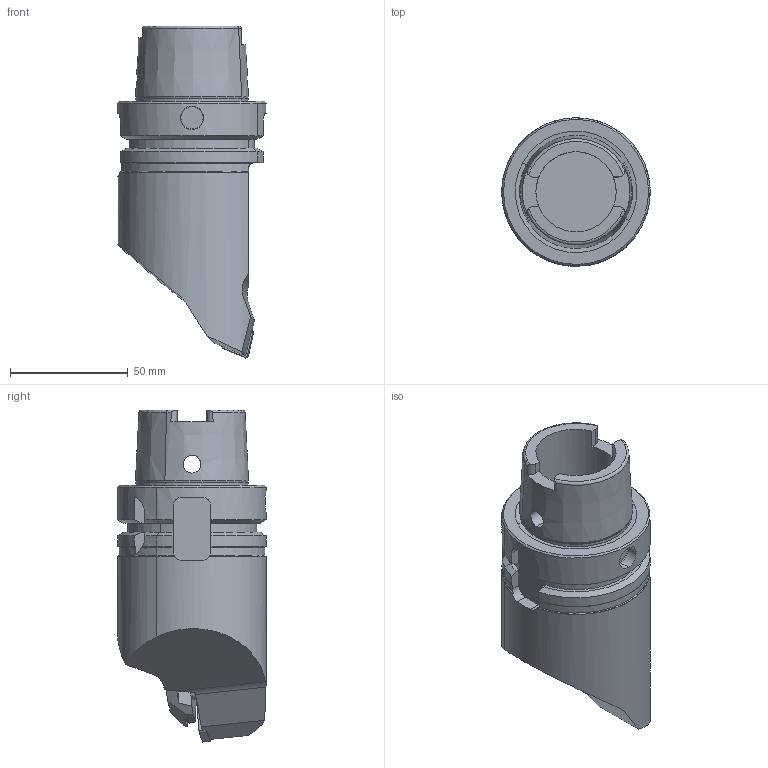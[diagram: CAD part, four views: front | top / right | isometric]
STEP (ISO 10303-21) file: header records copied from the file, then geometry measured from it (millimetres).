
FILE_DESCRIPTION(('CATIA V5 STEP','CAx-IF Rec.Pracs.--- Model Styling and Organization---1.2---2011-12-15'),'2;1');
FILE_NAME('\\nas01\drv1\utils\eitdev\rte\eit\transmagicconvert\db\out\636007259862748515\\3602386-D-B.stp','2016-06-05T09:20:05+00:00',('none'),('none'),'CATIA Version 5 Release 21 SP 5 (IN-10)','CATIA V5 STEP AP214','none');
FILE_SCHEMA(('AUTOMOTIVE_DESIGN { 1 0 10303 214 1 1 1 1 }'));
Length unit declared in the file: millimetre
Products named in the file (1): HSK A63WH-MULNL-J12MW
Bounding box: 62.94 x 63 x 140.89 mm (x, y, z)
Volume: 245650.3 mm3; surface area: 34634.9 mm2
Topology: 1 solids, 1 shells, 219 faces, 657 edges, 440 vertices
Faces by surface type: plane 116, cylinder 64, cone 18, torus 15, bspline 6
Entity records: 7771 total; most frequent: CARTESIAN_POINT 2344, ORIENTED_EDGE 1314, DIRECTION 828, EDGE_CURVE 657, VERTEX_POINT 440, VECTOR 371, LINE 371, AXIS2_PLACEMENT_3D 310
